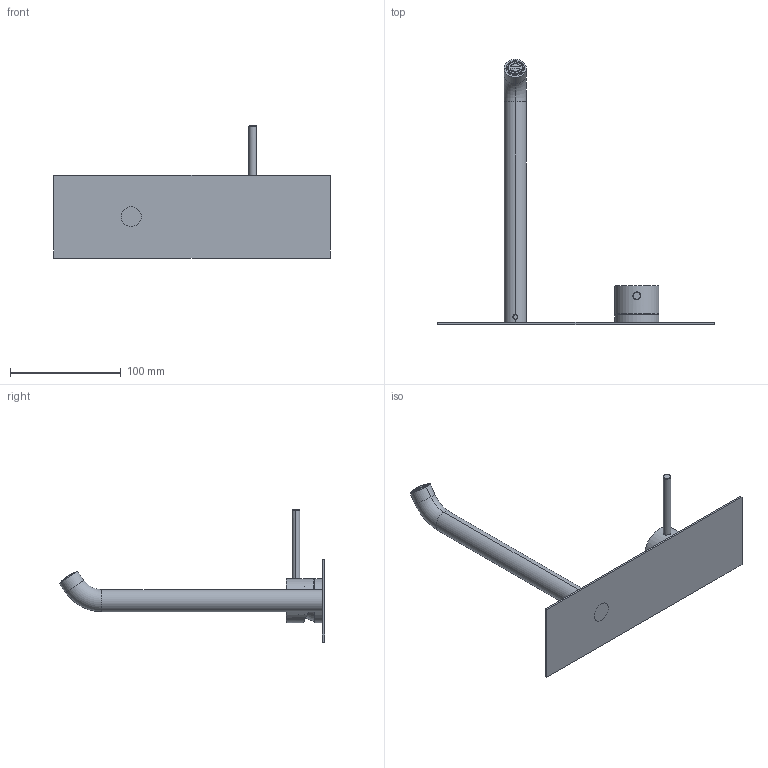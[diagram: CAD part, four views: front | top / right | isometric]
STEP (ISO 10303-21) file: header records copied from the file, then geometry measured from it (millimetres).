
FILE_DESCRIPTION((''),'2;1');
FILE_NAME('69548A21_SW0001','2025-11-19T10:14:48',('carloff'),(''),'CREO PARAMETRIC BY PTC INC, 2022014','CREO PARAMETRIC BY PTC INC, 2022014','');
FILE_SCHEMA(('CONFIG_CONTROL_DESIGN'));
Products named in the file (1): 69548A21_SW0001
Bounding box: 250 x 240.19 x 119.6 mm (x, y, z)
Volume: 96989.9 mm3; surface area: 78861.8 mm2
Topology: 2 solids, 2 shells, 1685 faces, 5002 edges, 3326 vertices
Faces by surface type: plane 1336, torus 124, cylinder 114, bspline 79, cone 23, sphere 6, extrusion 3
Entity records: 74970 total; most frequent: CARTESIAN_POINT 33627, ORIENTED_EDGE 9992, DIRECTION 6407, EDGE_CURVE 4996, VERTEX_POINT 3326, B_SPLINE_CURVE_WITH_KNOTS 2398, AXIS2_PLACEMENT_3D 2200, VECTOR 2007
